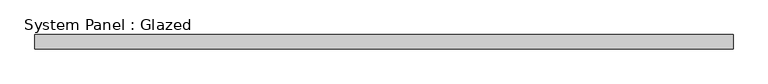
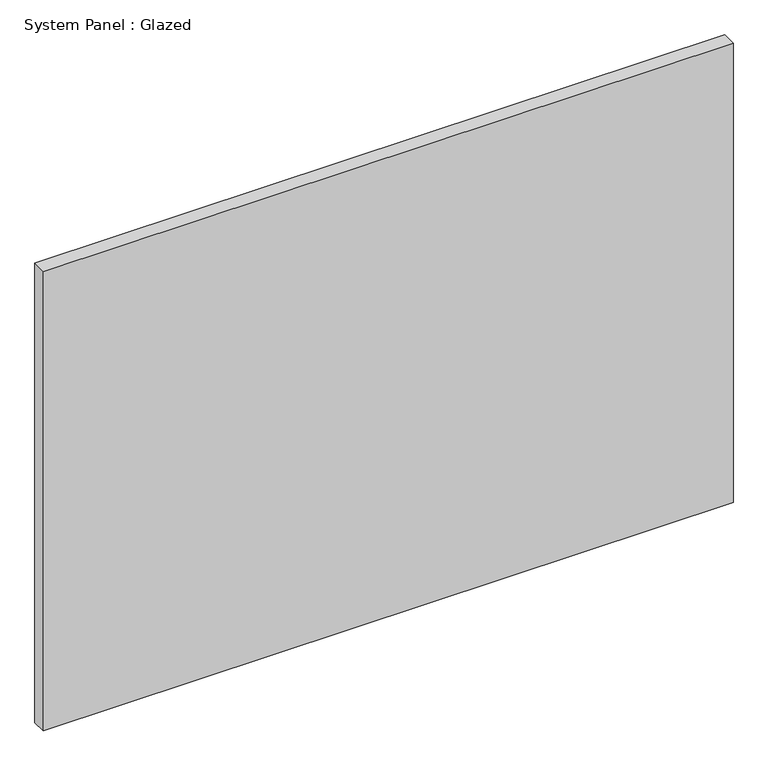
"""IFC4 building model written with IfcOpenShell, lengths in millimetres: plate geometry, System Panel : Glazed."""

from ifc_helpers import new_model, si_unit, origin, origin_with_axes, place, context, project, spatial, polyline, outline, extrude, source, transform, mapped, element, save


def system_panel_glazed_62007941(model_context):
    return source(origin(), model_context, "Body", "SweptSolid", [
        extrude(outline(polyline([(612.775, -44.45), (-612.775, -44.45), (-612.775, -19.05), (612.775, -19.05), (612.775, -44.45)])), origin_with_axes(), (0.0, 0.0, 1.0), 863.6),
    ])


if __name__ == "__main__":
    model = new_model("IFC4")
    model_context = context("Model", 3, world=origin())
    ifc_project = project(units=[si_unit("LENGTHUNIT", "METRE", prefix="MILLI")], contexts=[model_context])
    site = spatial("IfcSite", under=ifc_project)
    building = spatial("IfcBuilding", under=site)
    placement = place(None, origin())
    system_panel_glazed_shape = system_panel_glazed_62007941(model_context)
    element("IfcPlate", 1, ObjectType="System Panel : Glazed", at=placement, inside=building, context=model_context, shape_type="MappedRepresentation", body=[
        mapped(system_panel_glazed_shape, transform((0.0, 0.0, 0.0), x_axis=(1.0, 0.0, 0.0), y_axis=(0.0, 1.0, 0.0), z_axis=(0.0, 0.0, 1.0))),
    ])
    save(model, "model.ifc")
